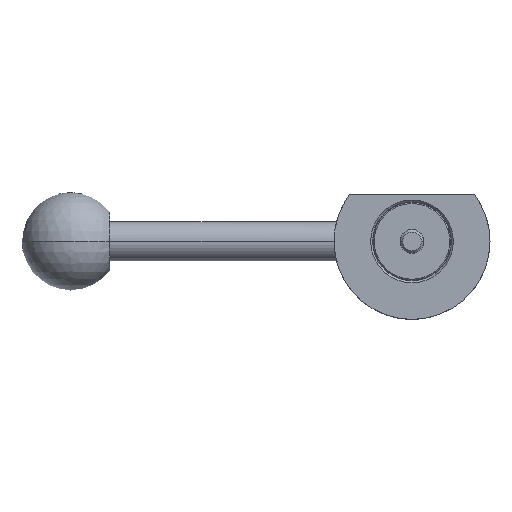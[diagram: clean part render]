
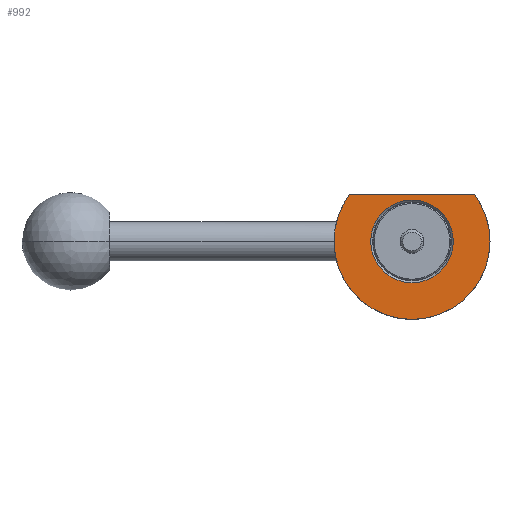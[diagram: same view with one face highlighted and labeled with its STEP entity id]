
A CAD part, front view. The second image highlights one B-rep face of the part: STEP entity #992.
In plain terms, the highlighted planar face has unit normal (0, -1, 0).
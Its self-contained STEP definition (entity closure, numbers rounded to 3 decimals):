
#32 = EDGE_CURVE ( 'NONE', #599, #147, #983, .T. ) ;
#50 = DIRECTION ( 'NONE',  ( 0., 1., 0. ) ) ;
#88 = CARTESIAN_POINT ( 'NONE',  ( -10.6, -10., 0. ) ) ;
#147 = VERTEX_POINT ( 'NONE', #1936 ) ;
#149 = AXIS2_PLACEMENT_3D ( 'NONE', #1339, #975, #830 ) ;
#235 = DIRECTION ( 'NONE',  ( 0., 1., 0. ) ) ;
#254 = FACE_OUTER_BOUND ( 'NONE', #1172, .T. ) ;
#290 = CARTESIAN_POINT ( 'NONE',  ( 0., -10., 0. ) ) ;
#312 = CARTESIAN_POINT ( 'NONE',  ( 10.6, -10., 0. ) ) ;
#324 = ORIENTED_EDGE ( 'NONE', *, *, #2018, .F. ) ;
#382 = DIRECTION ( 'NONE',  ( -1., 0., 0. ) ) ;
#388 = CIRCLE ( 'NONE', #565, 20. ) ;
#422 = VECTOR ( 'NONE', #471, 1000. ) ;
#430 = CARTESIAN_POINT ( 'NONE',  ( 16.001, -10., 11.999 ) ) ;
#471 = DIRECTION ( 'NONE',  ( -1., 0., 0. ) ) ;
#498 = VERTEX_POINT ( 'NONE', #843 ) ;
#540 = DIRECTION ( 'NONE',  ( 0., 1., 0. ) ) ;
#565 = AXIS2_PLACEMENT_3D ( 'NONE', #1670, #235, #1881 ) ;
#572 = CARTESIAN_POINT ( 'NONE',  ( 20., -10., 0. ) ) ;
#599 = VERTEX_POINT ( 'NONE', #572 ) ;
#646 = VERTEX_POINT ( 'NONE', #430 ) ;
#647 = DIRECTION ( 'NONE',  ( 0., 1., 0. ) ) ;
#689 = CIRCLE ( 'NONE', #1018, 10.6 ) ;
#724 = CIRCLE ( 'NONE', #149, 10.6 ) ;
#752 = DIRECTION ( 'NONE',  ( 0., -1., 0. ) ) ;
#830 = DIRECTION ( 'NONE',  ( -1., 0., 0. ) ) ;
#843 = CARTESIAN_POINT ( 'NONE',  ( -16.001, -10., 11.999 ) ) ;
#852 = EDGE_CURVE ( 'NONE', #1939, #1766, #689, .T. ) ;
#896 = PLANE ( 'NONE',  #1899 ) ;
#966 = EDGE_CURVE ( 'NONE', #1766, #1939, #724, .T. ) ;
#975 = DIRECTION ( 'NONE',  ( 0., 1., 0. ) ) ;
#983 = CIRCLE ( 'NONE', #1380, 20. ) ;
#992 = ADVANCED_FACE ( 'NONE', ( #1502, #254 ), #896, .T. ) ;
#1018 = AXIS2_PLACEMENT_3D ( 'NONE', #290, #540, #382 ) ;
#1060 = DIRECTION ( 'NONE',  ( 1., 0., 0. ) ) ;
#1076 = DIRECTION ( 'NONE',  ( -1., 0., 0. ) ) ;
#1153 = AXIS2_PLACEMENT_3D ( 'NONE', #1811, #50, #1452 ) ;
#1161 = EDGE_LOOP ( 'NONE', ( #1897, #1177 ) ) ;
#1172 = EDGE_LOOP ( 'NONE', ( #324, #1243, #1855, #1714 ) ) ;
#1177 = ORIENTED_EDGE ( 'NONE', *, *, #852, .T. ) ;
#1243 = ORIENTED_EDGE ( 'NONE', *, *, #1886, .T. ) ;
#1268 = LINE ( 'NONE', #1566, #422 ) ;
#1339 = CARTESIAN_POINT ( 'NONE',  ( 0., -10., 0. ) ) ;
#1345 = EDGE_CURVE ( 'NONE', #147, #498, #1412, .T. ) ;
#1380 = AXIS2_PLACEMENT_3D ( 'NONE', #2042, #647, #1076 ) ;
#1412 = CIRCLE ( 'NONE', #1153, 20. ) ;
#1452 = DIRECTION ( 'NONE',  ( -1., 0., 0. ) ) ;
#1502 = FACE_BOUND ( 'NONE', #1161, .T. ) ;
#1566 = CARTESIAN_POINT ( 'NONE',  ( -10.6, -10., 11.999 ) ) ;
#1670 = CARTESIAN_POINT ( 'NONE',  ( 0., -10., 0. ) ) ;
#1714 = ORIENTED_EDGE ( 'NONE', *, *, #32, .F. ) ;
#1766 = VERTEX_POINT ( 'NONE', #312 ) ;
#1811 = CARTESIAN_POINT ( 'NONE',  ( 0., -10., 0. ) ) ;
#1855 = ORIENTED_EDGE ( 'NONE', *, *, #1345, .F. ) ;
#1881 = DIRECTION ( 'NONE',  ( -1., 0., 0. ) ) ;
#1886 = EDGE_CURVE ( 'NONE', #646, #498, #1268, .T. ) ;
#1897 = ORIENTED_EDGE ( 'NONE', *, *, #966, .T. ) ;
#1899 = AXIS2_PLACEMENT_3D ( 'NONE', #88, #752, #1060 ) ;
#1903 = CARTESIAN_POINT ( 'NONE',  ( -10.6, -10., 0. ) ) ;
#1936 = CARTESIAN_POINT ( 'NONE',  ( -20., -10., 0. ) ) ;
#1939 = VERTEX_POINT ( 'NONE', #1903 ) ;
#2018 = EDGE_CURVE ( 'NONE', #646, #599, #388, .T. ) ;
#2042 = CARTESIAN_POINT ( 'NONE',  ( 0., -10., 0. ) ) ;
